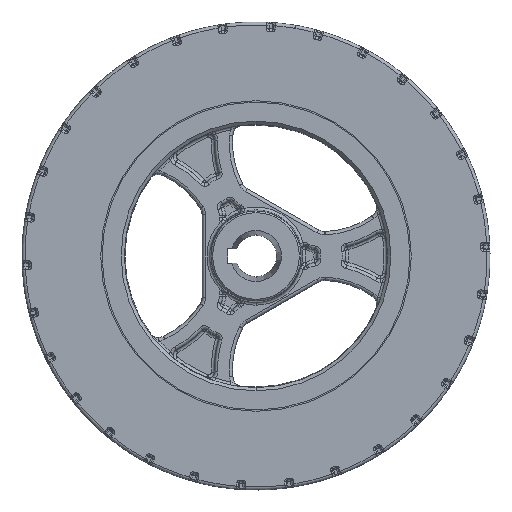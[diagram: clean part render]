
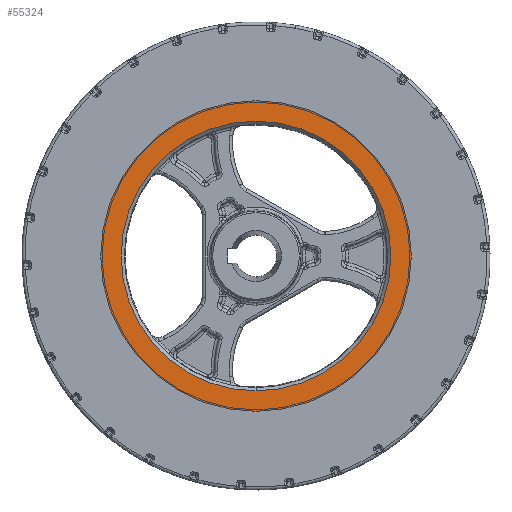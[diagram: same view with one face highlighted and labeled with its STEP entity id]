
A CAD part, left-side view. The second image highlights one B-rep face of the part: STEP entity #55324.
In plain terms, the highlighted planar face has unit normal (-1, 0, 0).
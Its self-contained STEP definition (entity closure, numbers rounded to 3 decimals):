
#3930 = EDGE_LOOP ( 'NONE', ( #58780, #39955 ) ) ;
#5121 = CARTESIAN_POINT ( 'NONE',  ( -16., 0., 0. ) ) ;
#6621 = AXIS2_PLACEMENT_3D ( 'NONE', #46949, #63167, #68586 ) ;
#10491 = CARTESIAN_POINT ( 'NONE',  ( -16., 0., 0. ) ) ;
#11569 = EDGE_CURVE ( 'NONE', #30261, #67274, #41384, .T. ) ;
#16182 = FACE_BOUND ( 'NONE', #35317, .T. ) ;
#17733 = DIRECTION ( 'NONE',  ( 0., 0., 1. ) ) ;
#21981 = DIRECTION ( 'NONE',  ( 0., 0., -1. ) ) ;
#22106 = CIRCLE ( 'NONE', #49851, 51.832 ) ;
#25074 = CARTESIAN_POINT ( 'NONE',  ( -16., 0., -45.02 ) ) ;
#28872 = DIRECTION ( 'NONE',  ( 1., 0., 0. ) ) ;
#30261 = VERTEX_POINT ( 'NONE', #65931 ) ;
#30828 = CARTESIAN_POINT ( 'NONE',  ( -16., 0., -51.832 ) ) ;
#33067 = FACE_OUTER_BOUND ( 'NONE', #3930, .T. ) ;
#35317 = EDGE_LOOP ( 'NONE', ( #52606, #54056 ) ) ;
#36668 = EDGE_CURVE ( 'NONE', #67274, #30261, #58976, .T. ) ;
#37618 = CIRCLE ( 'NONE', #6621, 51.832 ) ;
#38118 = DIRECTION ( 'NONE',  ( -1., 0., 0. ) ) ;
#39440 = EDGE_CURVE ( 'NONE', #54820, #51532, #22106, .T. ) ;
#39453 = AXIS2_PLACEMENT_3D ( 'NONE', #10491, #70587, #42850 ) ;
#39543 = DIRECTION ( 'NONE',  ( 0., 0., 1. ) ) ;
#39955 = ORIENTED_EDGE ( 'NONE', *, *, #39440, .F. ) ;
#41384 = CIRCLE ( 'NONE', #66687, 45.02 ) ;
#42850 = DIRECTION ( 'NONE',  ( 0., 0., 1. ) ) ;
#46949 = CARTESIAN_POINT ( 'NONE',  ( -16., 0., 0. ) ) ;
#49256 = PLANE ( 'NONE',  #67214 ) ;
#49851 = AXIS2_PLACEMENT_3D ( 'NONE', #5121, #59447, #21981 ) ;
#51187 = CARTESIAN_POINT ( 'NONE',  ( -16., 0., 0. ) ) ;
#51532 = VERTEX_POINT ( 'NONE', #65693 ) ;
#52606 = ORIENTED_EDGE ( 'NONE', *, *, #11569, .T. ) ;
#54056 = ORIENTED_EDGE ( 'NONE', *, *, #36668, .T. ) ;
#54820 = VERTEX_POINT ( 'NONE', #30828 ) ;
#55324 = ADVANCED_FACE ( 'NONE', ( #16182, #33067 ), #49256, .T. ) ;
#55731 = CARTESIAN_POINT ( 'NONE',  ( -16., 41.161, 0. ) ) ;
#58780 = ORIENTED_EDGE ( 'NONE', *, *, #67833, .F. ) ;
#58976 = CIRCLE ( 'NONE', #39453, 45.02 ) ;
#59447 = DIRECTION ( 'NONE',  ( 1., 0., 0. ) ) ;
#63167 = DIRECTION ( 'NONE',  ( 1., 0., 0. ) ) ;
#65693 = CARTESIAN_POINT ( 'NONE',  ( -16., 0., 51.832 ) ) ;
#65931 = CARTESIAN_POINT ( 'NONE',  ( -16., 0., 45.02 ) ) ;
#66687 = AXIS2_PLACEMENT_3D ( 'NONE', #51187, #28872, #17733 ) ;
#67214 = AXIS2_PLACEMENT_3D ( 'NONE', #55731, #38118, #39543 ) ;
#67274 = VERTEX_POINT ( 'NONE', #25074 ) ;
#67833 = EDGE_CURVE ( 'NONE', #51532, #54820, #37618, .T. ) ;
#68586 = DIRECTION ( 'NONE',  ( 0., 0., -1. ) ) ;
#70587 = DIRECTION ( 'NONE',  ( 1., 0., 0. ) ) ;
